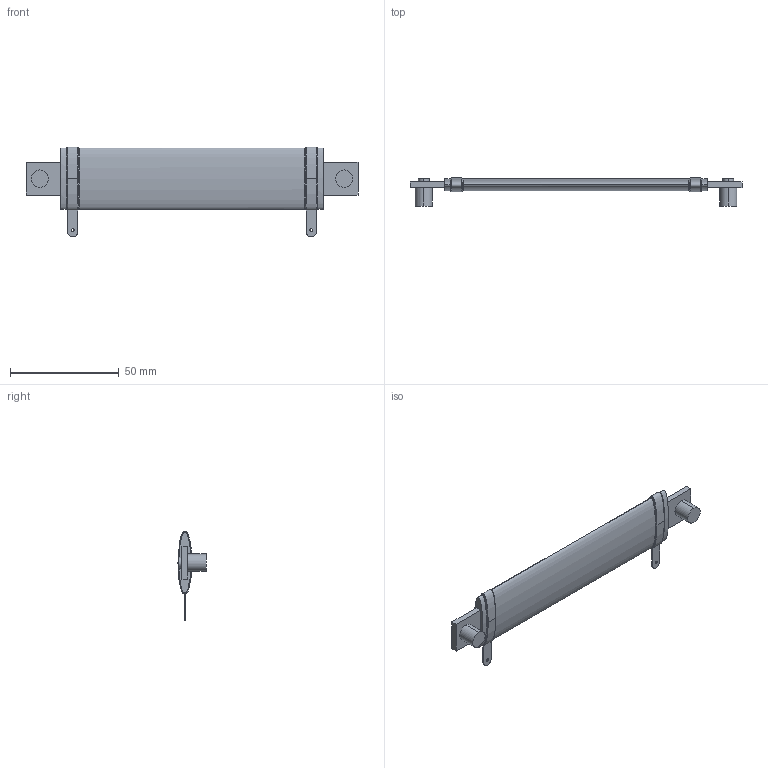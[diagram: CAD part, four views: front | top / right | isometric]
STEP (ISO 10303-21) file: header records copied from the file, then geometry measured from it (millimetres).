
FILE_DESCRIPTION (( 'STEP AP203' ), '1' );
FILE_NAME ('FSOT70-16E.STEP', '2019-11-04T15:55:01', ( '' ), ( '' ), 'SwSTEP 2.0', 'SolidWorks 2019', '' );
FILE_SCHEMA (( 'CONFIG_CONTROL_DESIGN' ));
Length unit declared in the file: millimetre
Products named in the file (1): FSOT70-16E
Bounding box: 152.41 x 12.91 x 41.12 mm (x, y, z)
Volume: 17117.4 mm3; surface area: 9236.9 mm2
Topology: 1 solids, 1 shells, 120 faces, 316 edges, 204 vertices
Faces by surface type: bspline 80, plane 24, cylinder 16
Entity records: 6381 total; most frequent: CARTESIAN_POINT 3879, ORIENTED_EDGE 632, DIRECTION 328, EDGE_CURVE 316, VERTEX_POINT 204, B_SPLINE_CURVE_WITH_KNOTS 158, AXIS2_PLACEMENT_3D 133, EDGE_LOOP 130
